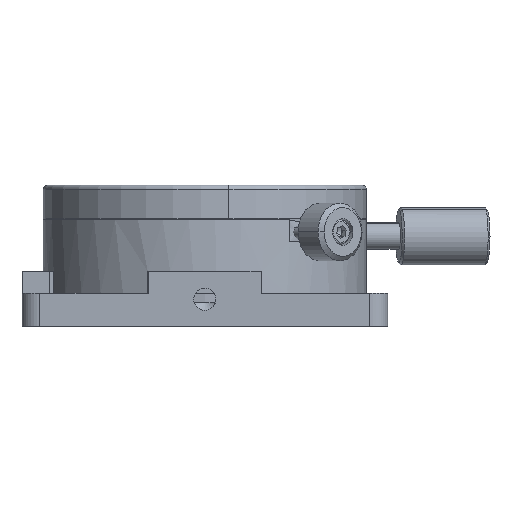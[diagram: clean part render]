
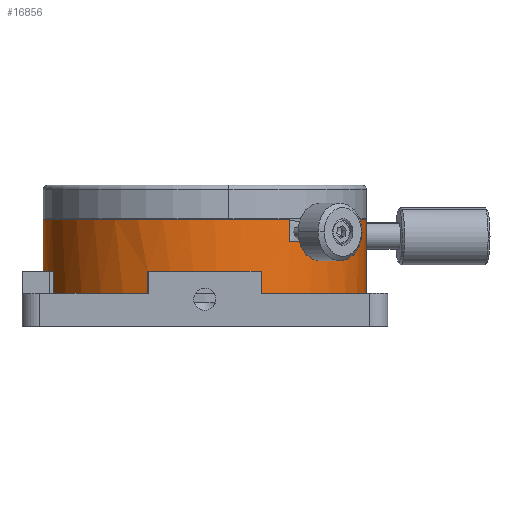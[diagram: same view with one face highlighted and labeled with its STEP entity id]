
A CAD part, top view. The second image highlights one B-rep face of the part: STEP entity #16856.
In plain terms, the highlighted cylindrical face has radius 36.5 mm (diameter 73 mm), a partial arc.
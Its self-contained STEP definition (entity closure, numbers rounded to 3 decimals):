
#192 = CARTESIAN_POINT ( 'NONE',  ( 27.24, 19.1, 24.295 ) ) ;
#213 = AXIS2_PLACEMENT_3D ( 'NONE', #17892, #11156, #12574 ) ;
#269 = EDGE_CURVE ( 'NONE', #5582, #9662, #15507, .T. ) ;
#287 = CARTESIAN_POINT ( 'NONE',  ( 36.5, 24.1, 0. ) ) ;
#347 = CARTESIAN_POINT ( 'NONE',  ( 0., 12.4, 0. ) ) ;
#448 = EDGE_CURVE ( 'NONE', #3538, #13345, #3019, .T. ) ;
#527 = AXIS2_PLACEMENT_3D ( 'NONE', #11267, #12699, #9717 ) ;
#563 = ORIENTED_EDGE ( 'NONE', *, *, #448, .T. ) ;
#819 = CARTESIAN_POINT ( 'NONE',  ( 19.196, 19.1, 31.045 ) ) ;
#856 = VERTEX_POINT ( 'NONE', #10071 ) ;
#878 = EDGE_CURVE ( 'NONE', #856, #5582, #3000, .T. ) ;
#1520 = CARTESIAN_POINT ( 'NONE',  ( 27.24, 24.1, 24.295 ) ) ;
#1607 = DIRECTION ( 'NONE',  ( 0., -1., 0. ) ) ;
#1840 = CIRCLE ( 'NONE', #9184, 36.5 ) ;
#1876 = ORIENTED_EDGE ( 'NONE', *, *, #10087, .T. ) ;
#1973 = ORIENTED_EDGE ( 'NONE', *, *, #9533, .T. ) ;
#2032 = VECTOR ( 'NONE', #4748, 1000. ) ;
#2096 = ORIENTED_EDGE ( 'NONE', *, *, #6769, .T. ) ;
#2420 = DIRECTION ( 'NONE',  ( 1., 0., 0. ) ) ;
#2463 = CARTESIAN_POINT ( 'NONE',  ( 12.9, 5.4, 34.144 ) ) ;
#2529 = AXIS2_PLACEMENT_3D ( 'NONE', #347, #7427, #17010 ) ;
#2575 = CARTESIAN_POINT ( 'NONE',  ( 36.5, 5.4, 0. ) ) ;
#2614 = EDGE_CURVE ( 'NONE', #17123, #13345, #1840, .T. ) ;
#3000 = CIRCLE ( 'NONE', #2529, 36.5 ) ;
#3005 = AXIS2_PLACEMENT_3D ( 'NONE', #5878, #17183, #15769 ) ;
#3019 = LINE ( 'NONE', #2463, #17470 ) ;
#3362 = DIRECTION ( 'NONE',  ( 0., -1., 0. ) ) ;
#3538 = VERTEX_POINT ( 'NONE', #5569 ) ;
#3989 = CIRCLE ( 'NONE', #527, 36.5 ) ;
#4002 = EDGE_CURVE ( 'NONE', #7388, #4919, #12767, .T. ) ;
#4022 = ORIENTED_EDGE ( 'NONE', *, *, #269, .T. ) ;
#4047 = VERTEX_POINT ( 'NONE', #192 ) ;
#4099 = LINE ( 'NONE', #10685, #18160 ) ;
#4176 = ORIENTED_EDGE ( 'NONE', *, *, #7125, .T. ) ;
#4469 = CARTESIAN_POINT ( 'NONE',  ( -36.5, 24.1, 0. ) ) ;
#4740 = DIRECTION ( 'NONE',  ( 1., 0., 0. ) ) ;
#4748 = DIRECTION ( 'NONE',  ( 0., 1., 0. ) ) ;
#4849 = LINE ( 'NONE', #5401, #16514 ) ;
#4919 = VERTEX_POINT ( 'NONE', #4469 ) ;
#5002 = ORIENTED_EDGE ( 'NONE', *, *, #4002, .T. ) ;
#5133 = CIRCLE ( 'NONE', #5391, 36.5 ) ;
#5300 = CARTESIAN_POINT ( 'NONE',  ( 0., 7.4, 0. ) ) ;
#5391 = AXIS2_PLACEMENT_3D ( 'NONE', #14187, #15573, #5741 ) ;
#5401 = CARTESIAN_POINT ( 'NONE',  ( -12.9, 5.4, 34.144 ) ) ;
#5481 = CARTESIAN_POINT ( 'NONE',  ( 12.9, 7.4, 34.144 ) ) ;
#5547 = ORIENTED_EDGE ( 'NONE', *, *, #12320, .F. ) ;
#5569 = CARTESIAN_POINT ( 'NONE',  ( 12.9, 12.4, 34.144 ) ) ;
#5582 = VERTEX_POINT ( 'NONE', #17342 ) ;
#5741 = DIRECTION ( 'NONE',  ( 1., 0., 0. ) ) ;
#5861 = VECTOR ( 'NONE', #1607, 1000. ) ;
#5878 = CARTESIAN_POINT ( 'NONE',  ( 0., 19.1, 0. ) ) ;
#5970 = CARTESIAN_POINT ( 'NONE',  ( 0., 5.4, 0. ) ) ;
#6238 = LINE ( 'NONE', #2575, #14817 ) ;
#6696 = EDGE_CURVE ( 'NONE', #16325, #9662, #5133, .T. ) ;
#6703 = CARTESIAN_POINT ( 'NONE',  ( 36.5, 7.4, 0. ) ) ;
#6769 = EDGE_CURVE ( 'NONE', #9860, #3538, #15700, .T. ) ;
#6781 = CARTESIAN_POINT ( 'NONE',  ( 19.196, 24.1, 31.045 ) ) ;
#7125 = EDGE_CURVE ( 'NONE', #10854, #7388, #4099, .T. ) ;
#7388 = VERTEX_POINT ( 'NONE', #6781 ) ;
#7427 = DIRECTION ( 'NONE',  ( 0., 1., 0. ) ) ;
#7614 = LINE ( 'NONE', #11387, #5861 ) ;
#7700 = EDGE_CURVE ( 'NONE', #10628, #17123, #6238, .T. ) ;
#8834 = CARTESIAN_POINT ( 'NONE',  ( -34.144, 5.4, 12.9 ) ) ;
#8904 = CARTESIAN_POINT ( 'NONE',  ( 27.24, 19.1, 24.295 ) ) ;
#9184 = AXIS2_PLACEMENT_3D ( 'NONE', #5300, #10720, #2420 ) ;
#9398 = DIRECTION ( 'NONE',  ( 0., -1., 0. ) ) ;
#9533 = EDGE_CURVE ( 'NONE', #16325, #9860, #4849, .T. ) ;
#9630 = VERTEX_POINT ( 'NONE', #1520 ) ;
#9662 = VERTEX_POINT ( 'NONE', #15594 ) ;
#9679 = ORIENTED_EDGE ( 'NONE', *, *, #878, .T. ) ;
#9717 = DIRECTION ( 'NONE',  ( 1., 0., 0. ) ) ;
#9766 = EDGE_CURVE ( 'NONE', #4047, #9630, #14339, .T. ) ;
#9860 = VERTEX_POINT ( 'NONE', #18020 ) ;
#10071 = CARTESIAN_POINT ( 'NONE',  ( -36.5, 12.4, 0. ) ) ;
#10087 = EDGE_CURVE ( 'NONE', #10628, #9630, #3989, .T. ) ;
#10457 = CIRCLE ( 'NONE', #3005, 36.5 ) ;
#10628 = VERTEX_POINT ( 'NONE', #287 ) ;
#10642 = EDGE_LOOP ( 'NONE', ( #5002, #11513, #9679, #4022, #11463, #1973, #2096, #563, #15031, #13790, #1876, #15497, #5547, #4176 ) ) ;
#10685 = CARTESIAN_POINT ( 'NONE',  ( 19.196, 19.1, 31.045 ) ) ;
#10720 = DIRECTION ( 'NONE',  ( 0., -1., 0. ) ) ;
#10854 = VERTEX_POINT ( 'NONE', #819 ) ;
#11156 = DIRECTION ( 'NONE',  ( 0., -1., 0. ) ) ;
#11267 = CARTESIAN_POINT ( 'NONE',  ( 0., 24.1, 0. ) ) ;
#11387 = CARTESIAN_POINT ( 'NONE',  ( -36.5, 5.4, 0. ) ) ;
#11463 = ORIENTED_EDGE ( 'NONE', *, *, #6696, .F. ) ;
#11513 = ORIENTED_EDGE ( 'NONE', *, *, #11820, .T. ) ;
#11650 = DIRECTION ( 'NONE',  ( -1., 0., 0. ) ) ;
#11820 = EDGE_CURVE ( 'NONE', #4919, #856, #7614, .T. ) ;
#12312 = DIRECTION ( 'NONE',  ( 0., -1., 0. ) ) ;
#12320 = EDGE_CURVE ( 'NONE', #10854, #4047, #10457, .T. ) ;
#12490 = CYLINDRICAL_SURFACE ( 'NONE', #14562, 36.5 ) ;
#12574 = DIRECTION ( 'NONE',  ( 1., 0., 0. ) ) ;
#12699 = DIRECTION ( 'NONE',  ( 0., -1., 0. ) ) ;
#12767 = CIRCLE ( 'NONE', #213, 36.5 ) ;
#13021 = CARTESIAN_POINT ( 'NONE',  ( 0., 12.4, 0. ) ) ;
#13256 = DIRECTION ( 'NONE',  ( 0., 1., 0. ) ) ;
#13345 = VERTEX_POINT ( 'NONE', #5481 ) ;
#13555 = VECTOR ( 'NONE', #15677, 1000. ) ;
#13790 = ORIENTED_EDGE ( 'NONE', *, *, #7700, .F. ) ;
#14187 = CARTESIAN_POINT ( 'NONE',  ( 0., 7.4, 0. ) ) ;
#14193 = CARTESIAN_POINT ( 'NONE',  ( -12.9, 7.4, 34.144 ) ) ;
#14339 = LINE ( 'NONE', #8904, #2032 ) ;
#14562 = AXIS2_PLACEMENT_3D ( 'NONE', #5970, #3362, #4740 ) ;
#14673 = FACE_OUTER_BOUND ( 'NONE', #10642, .T. ) ;
#14817 = VECTOR ( 'NONE', #9398, 1000. ) ;
#14991 = DIRECTION ( 'NONE',  ( 0., 1., 0. ) ) ;
#15031 = ORIENTED_EDGE ( 'NONE', *, *, #2614, .F. ) ;
#15497 = ORIENTED_EDGE ( 'NONE', *, *, #9766, .F. ) ;
#15507 = LINE ( 'NONE', #8834, #13555 ) ;
#15573 = DIRECTION ( 'NONE',  ( 0., -1., 0. ) ) ;
#15594 = CARTESIAN_POINT ( 'NONE',  ( -34.144, 7.4, 12.9 ) ) ;
#15677 = DIRECTION ( 'NONE',  ( 0., -1., 0. ) ) ;
#15700 = CIRCLE ( 'NONE', #17042, 36.5 ) ;
#15769 = DIRECTION ( 'NONE',  ( -1., 0., 0. ) ) ;
#16325 = VERTEX_POINT ( 'NONE', #14193 ) ;
#16514 = VECTOR ( 'NONE', #18188, 1000. ) ;
#16856 = ADVANCED_FACE ( 'NONE', ( #14673 ), #12490, .T. ) ;
#17010 = DIRECTION ( 'NONE',  ( -1., 0., 0. ) ) ;
#17042 = AXIS2_PLACEMENT_3D ( 'NONE', #13021, #13256, #11650 ) ;
#17123 = VERTEX_POINT ( 'NONE', #6703 ) ;
#17183 = DIRECTION ( 'NONE',  ( 0., 1., 0. ) ) ;
#17342 = CARTESIAN_POINT ( 'NONE',  ( -34.144, 12.4, 12.9 ) ) ;
#17470 = VECTOR ( 'NONE', #12312, 1000. ) ;
#17892 = CARTESIAN_POINT ( 'NONE',  ( 0., 24.1, 0. ) ) ;
#18020 = CARTESIAN_POINT ( 'NONE',  ( -12.9, 12.4, 34.144 ) ) ;
#18160 = VECTOR ( 'NONE', #14991, 1000. ) ;
#18188 = DIRECTION ( 'NONE',  ( 0., 1., 0. ) ) ;
